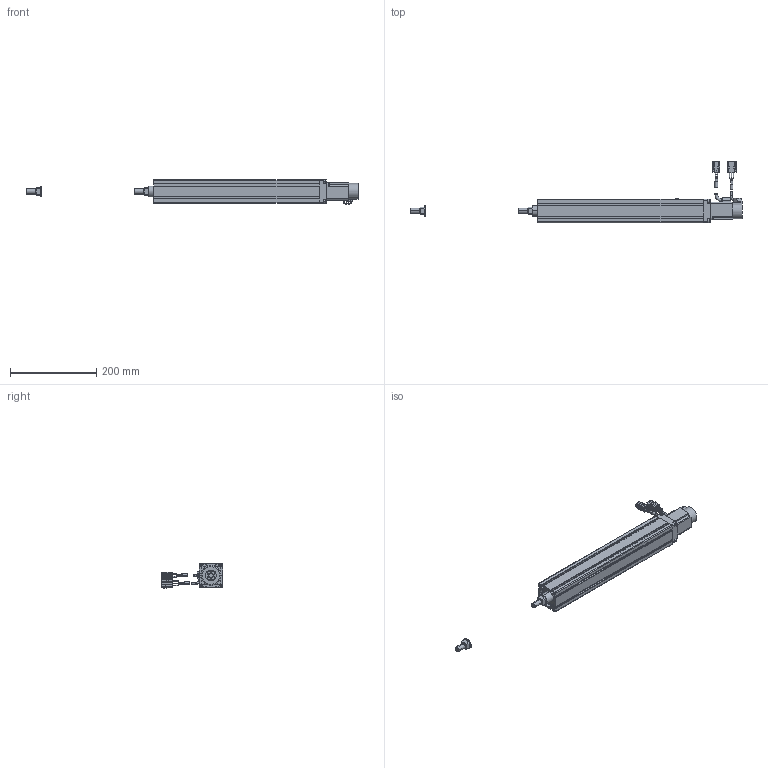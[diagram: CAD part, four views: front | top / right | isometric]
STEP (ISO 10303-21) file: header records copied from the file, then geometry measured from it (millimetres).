
FILE_DESCRIPTION((''),'2;1');
FILE_NAME('BET5E-ST-C_N-25_IGS_PRT','2017-06-18T',(' '),(''),'PRO/ENGINEER BY PARAMETRIC TECHNOLOGY CORPORATION, 2015030','PRO/ENGINEER BY PARAMETRIC TECHNOLOGY CORPORATION, 2015030','');
FILE_SCHEMA(('CONFIG_CONTROL_DESIGN'));
Length unit declared in the file: millimetre
Products named in the file (1): BET5E-ST-C_N-25_IGS_PRT
Bounding box: 768.5 x 142.55 x 57.56 mm (x, y, z)
Volume: 948175.6 mm3; surface area: 264840 mm2
Topology: 7 solids, 33 shells, 893 faces, 2310 edges, 1492 vertices
Faces by surface type: plane 556, cylinder 245, torus 66, cone 22, sphere 4
Entity records: 27336 total; most frequent: CARTESIAN_POINT 4942, DIRECTION 4706, ORIENTED_EDGE 4548, EDGE_CURVE 2302, VECTOR 1616, LINE 1616, AXIS2_PLACEMENT_3D 1545, VERTEX_POINT 1492
